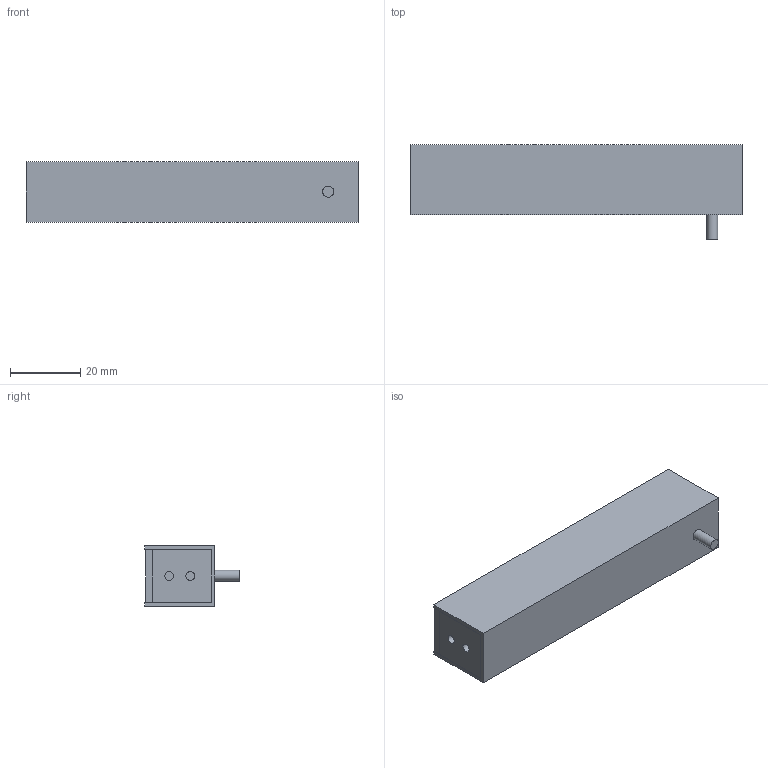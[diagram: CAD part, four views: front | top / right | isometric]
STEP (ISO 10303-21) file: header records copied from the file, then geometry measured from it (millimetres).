
FILE_DESCRIPTION(/* description */ (''),/* implementation_level */ '2;1');
FILE_NAME(/* name */ 'C:\#Vault-WorkDir\Konstruktions-Dokumente\Projekte\Zubehör allgemein\Falcon Beleuchtungen\153-00756_LB 86 xD-24-KFL5.stp',/* time_stamp */ '2018-07-26T09:31:37+02:00',/* author */ ('SensoPart'),/* organization */ ('SensoPart'),/* preprocessor_version */ 'ST-DEVELOPER v17',/* originating_system */ 'Autodesk Inventor 2018',/* authorisation */ '');
FILE_SCHEMA (('AUTOMOTIVE_DESIGN { 1 0 10303 214 3 1 1 }'));
Length unit declared in the file: millimetre
Products named in the file (1): GH-ENG-0026535_Shrinkwrap_1
Bounding box: 94.5 x 27 x 17.2 mm (x, y, z)
Volume: 31560.9 mm3; surface area: 15118.8 mm2
Topology: 1 solids, 1 shells, 38 faces, 96 edges, 68 vertices
Faces by surface type: plane 26, cylinder 10, cone 2
Full cylindrical faces by diameter (mm): 2 x2, 2.4 x2, 2.5 x4, 3.1 x1, 3.2 x1
Entity records: 1382 total; most frequent: CARTESIAN_POINT 293, DIRECTION 214, ORIENTED_EDGE 200, EDGE_CURVE 100, AXIS2_PLACEMENT_3D 77, VERTEX_POINT 72, LINE 60, VECTOR 60
